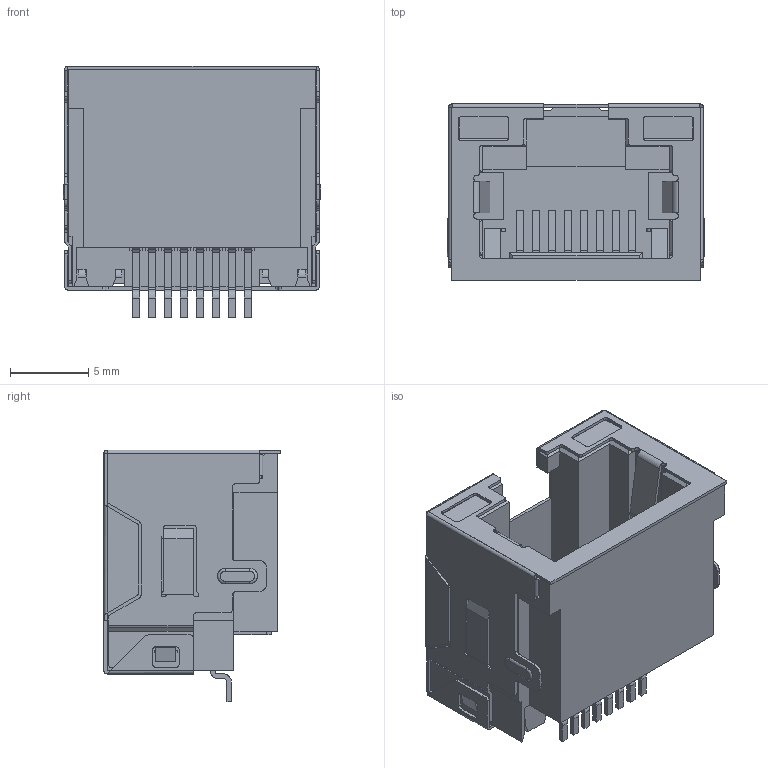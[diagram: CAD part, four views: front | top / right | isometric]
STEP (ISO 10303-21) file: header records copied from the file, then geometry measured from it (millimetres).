
FILE_DESCRIPTION (( 'STEP AP203' ), '1' );
FILE_NAME ('2.8 3D³ÉÆ·Í¼.STEP', '2019-08-03T02:26:18', ( 'User' ), ( 'china' ), 'SwSTEP 2.0', 'SolidWorks 2015', '' );
FILE_SCHEMA (( 'CONFIG_CONTROL_DESIGN' ));
Length unit declared in the file: millimetre
Products named in the file (1): 2.8 3D傖こ芞
Bounding box: 16.45 x 11.25 x 16.08 mm (x, y, z)
Surface area: 3855 mm2 (no closed solid volume)
Topology: 0 solids, 1169 shells, 1187 faces, 6654 edges, 6636 vertices
Faces by surface type: plane 802, cylinder 371, torus 14
Entity records: 71753 total; most frequent: CARTESIAN_POINT 23808, DIRECTION 8598, ORIENTED_EDGE 6672, EDGE_CURVE 6654, VERTEX_POINT 6636, LINE 4750, VECTOR 4750, AXIS2_PLACEMENT_3D 1924
